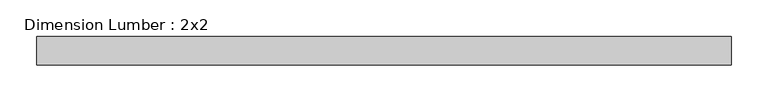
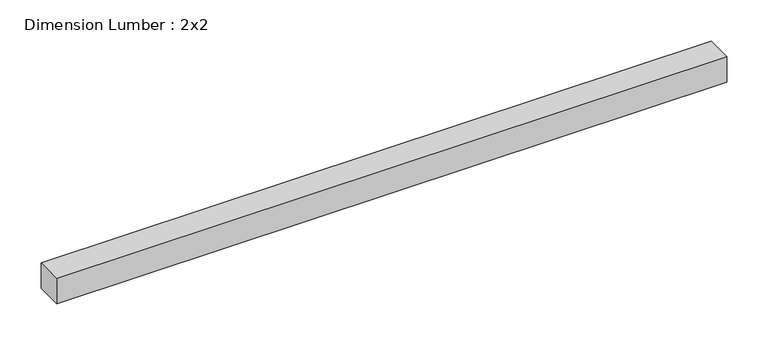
"""IFC4 building model written with IfcOpenShell, lengths in millimetres: beam geometry, Dimension Lumber : 2x2."""

import ifcopenshell
import ifcopenshell.guid

model = None  # the IFC model being written
_history = None  # IfcOwnerHistory: only IFC2X3 demands one
_inside = {}  # id of a spatial element -> (the spatial element, [elements in it])
_under = {}  # id of a project, library or spatial element -> (it, [spatial elements below it])
_declared = {}  # id of a project -> (the project, [libraries it declares])
_typed = {}  # id of a type object -> (the type object, [elements of that type])
_made_of = {}  # id of a material, layer set ... -> (it, [elements and type objects made of it])


def new_model(schema):
    """Start an empty IFC model of exactly this schema.

    Asked for "IFC4X3", IfcOpenShell would pick the latest addendum, in which some entities
    have other attributes; the version numbers below select the first issue.
    IFC2X3 requires an IfcOwnerHistory on every rooted entity: one is made here for all.
    """
    global model, _history
    if schema == "IFC4X3":
        model = ifcopenshell.file(schema_version=(4, 3, 0, 0))
    else:
        model = ifcopenshell.file(schema=schema)
    _inside.clear()
    _under.clear()
    _declared.clear()
    _typed.clear()
    _made_of.clear()
    _history = None
    if model.schema == "IFC2X3":
        org = make("IfcOrganization", Name="unknown")
        user = make(
            "IfcPersonAndOrganization",
            ThePerson=make("IfcPerson", FamilyName="unknown"),
            TheOrganization=org,
        )
        app = make(
            "IfcApplication",
            ApplicationDeveloper=org,
            Version="unknown",
            ApplicationFullName="unknown",
            ApplicationIdentifier="unknown",
        )
        _history = make(
            "IfcOwnerHistory",
            OwningUser=user,
            OwningApplication=app,
            ChangeAction="ADDED",
            CreationDate=0,
        )
    return model


def make(cls, **values):
    """One entity of the class cls with the attributes given. An attribute that is None is left unset."""
    return model.create_entity(
        cls, **{name: value for name, value in values.items() if value is not None}
    )


def rooted(cls, **values):
    """An entity with a GlobalId (a new one), such as an element, a storey or a relation."""
    return make(cls, GlobalId=ifcopenshell.guid.new(), OwnerHistory=_history, **values)


def si_unit(unit_type, name, prefix=None):
    """IfcSIUnit, for example si_unit("LENGTHUNIT", "METRE", prefix="MILLI")."""
    return make("IfcSIUnit", UnitType=unit_type, Prefix=prefix, Name=name)


def assignment(units):
    """IfcUnitAssignment: the units of a project."""
    return None if units is None else make("IfcUnitAssignment", Units=units)


def point(xyz):
    """IfcCartesianPoint."""
    return None if xyz is None else make("IfcCartesianPoint", Coordinates=xyz)


def direction(xyz):
    """IfcDirection."""
    return None if xyz is None else make("IfcDirection", DirectionRatios=xyz)


def frame(location, z_axis=None, x_axis=None):
    """IfcAxis2Placement3D, a coordinate frame: its origin and axes. An axis left out is left unset."""
    return make(
        "IfcAxis2Placement3D",
        Location=point(location),
        Axis=direction(z_axis),
        RefDirection=direction(x_axis),
    )


def origin():
    """The frame at (0, 0, 0) with its axes left unset."""
    return frame((0.0, 0.0, 0.0))


def place(relative_to, where):
    """IfcLocalPlacement: puts the frame where relative to a parent placement (None: the world)."""
    return make(
        "IfcLocalPlacement", PlacementRelTo=relative_to, RelativePlacement=where
    )


def context(
    kind, dimensions, precision=None, world=None, true_north=None, identifier=None
):
    """IfcGeometricRepresentationContext, for example the 3D "Model" context."""
    return make(
        "IfcGeometricRepresentationContext",
        ContextIdentifier=identifier,
        ContextType=kind,
        CoordinateSpaceDimension=dimensions,
        Precision=precision,
        WorldCoordinateSystem=world,
        TrueNorth=true_north,
    )


def project(units=None, contexts=None):
    """IfcProject with its units and contexts."""
    return rooted(
        "IfcProject",
        Name="project",
        RepresentationContexts=contexts,
        UnitsInContext=assignment(units),
    )


def spatial(cls, under=None, at=None, **own):
    """A site, building, storey or space (cls), placed at a placement, below another one or the project."""
    s = rooted(cls, ObjectPlacement=at, **own)
    if under is not None:
        _under.setdefault(under.id(), (under, []))[1].append(s)
    return s


def polyline(points):
    """IfcPolyline through the points."""
    return make("IfcPolyline", Points=[point(p) for p in points])


def outline(outer, holes=None, kind="AREA"):
    """IfcArbitraryClosedProfileDef: a profile drawn as a closed curve; with holes, ...WithVoids."""
    if holes is None:
        return make("IfcArbitraryClosedProfileDef", ProfileType=kind, OuterCurve=outer)
    return make(
        "IfcArbitraryProfileDefWithVoids",
        ProfileType=kind,
        OuterCurve=outer,
        InnerCurves=holes,
    )


def extrude(swept, where, along, depth):
    """IfcExtrudedAreaSolid: the profile swept, set in the frame where, extruded along a direction by depth."""
    return make(
        "IfcExtrudedAreaSolid",
        SweptArea=swept,
        Position=where,
        ExtrudedDirection=direction(along),
        Depth=depth,
    )


def shape(context_of_items, identifier, shape_type, items):
    """IfcShapeRepresentation: the items that make up one representation, for example the "Body"."""
    return make(
        "IfcShapeRepresentation",
        ContextOfItems=context_of_items,
        RepresentationIdentifier=identifier,
        RepresentationType=shape_type,
        Items=items,
    )


def source(mapping_origin, context_of_items, identifier, shape_type, items):
    """IfcRepresentationMap: a shape defined once, which mapped items show again and again."""
    return make(
        "IfcRepresentationMap",
        MappingOrigin=mapping_origin,
        MappedRepresentation=shape(context_of_items, identifier, shape_type, items),
    )


def transform(
    local_origin,
    x_axis=None,
    y_axis=None,
    z_axis=None,
    scale=None,
    scale2=None,
    scale3=None,
    uniform=True,
):
    """IfcCartesianTransformationOperator3D, or its non-uniform kind. x_axis, y_axis, z_axis: its Axis1, 2, 3."""
    if uniform:
        return make(
            "IfcCartesianTransformationOperator3D",
            Axis1=direction(x_axis),
            Axis2=direction(y_axis),
            LocalOrigin=point(local_origin),
            Scale=scale,
            Axis3=direction(z_axis),
        )
    return make(
        "IfcCartesianTransformationOperator3DnonUniform",
        Axis1=direction(x_axis),
        Axis2=direction(y_axis),
        LocalOrigin=point(local_origin),
        Scale=scale,
        Axis3=direction(z_axis),
        Scale2=scale2,
        Scale3=scale3,
    )


def mapped(mapping_source, mapping_target):
    """IfcMappedItem: shows the shape of a source again, moved by a transform."""
    return make(
        "IfcMappedItem", MappingSource=mapping_source, MappingTarget=mapping_target
    )


def made_of(thing, what):
    """Note that an element or type object is made of a material, layer set ...; save() writes the relation."""
    if what is not None:
        _made_of.setdefault(what.id(), (what, []))[1].append(thing)
    return thing


def element(
    cls,
    number,
    at=None,
    inside=None,
    cuts=None,
    type_object=None,
    material=None,
    context=None,
    identifier="Body",
    shape_type=None,
    held_by="IfcProductDefinitionShape",
    body=None,
    shapes=None,
    **own,
):
    """One element of the class cls, such as IfcWall. Its Tag is "e" and its number.

    at: its placement. inside: the storey or other place that contains it. cuts: it is an
    opening in that element (IfcRelVoidsElement). A single representation is given by context,
    identifier, shape_type and body (its items); several are given by shapes. held_by: the class
    of the entity that holds the representations. save() writes the other relations.
    """
    e = rooted(cls, Tag="e%d" % number, ObjectPlacement=at, **own)
    if body is not None:
        shapes = [shape(context, identifier, shape_type, body)]
    if shapes is not None:
        e.Representation = make(held_by, Representations=shapes)
    if inside is not None:
        _inside.setdefault(inside.id(), (inside, []))[1].append(e)
    if cuts is not None:
        rooted(
            "IfcRelVoidsElement", RelatingBuildingElement=cuts, RelatedOpeningElement=e
        )
    if type_object is not None:
        _typed.setdefault(type_object.id(), (type_object, []))[1].append(e)
    return made_of(e, material)


def aggregate(whole, parts):
    """IfcRelAggregates: a whole, such as a stair, and the parts it consists of."""
    return rooted("IfcRelAggregates", RelatingObject=whole, RelatedObjects=parts)


def save(model, path):
    """Write the relations noted so far, then the file.

    IfcRelAggregates (storeys below a building ...), IfcRelContainedInSpatialStructure (elements
    in a storey), IfcRelDefinesByType, IfcRelAssociatesMaterial and IfcRelDeclares: one each for
    every whole, place, type object, material and project.
    """
    for whole, parts in _under.values():
        aggregate(whole, parts)
    for where, things in _inside.values():
        rooted(
            "IfcRelContainedInSpatialStructure",
            RelatedElements=things,
            RelatingStructure=where,
        )
    for kind, things in _typed.values():
        rooted("IfcRelDefinesByType", RelatedObjects=things, RelatingType=kind)
    for what, things in _made_of.values():
        rooted("IfcRelAssociatesMaterial", RelatedObjects=things, RelatingMaterial=what)
    for by, libraries in _declared.values():
        rooted("IfcRelDeclares", RelatingContext=by, RelatedDefinitions=libraries)
    model.write(path)


def dimension_lumber_2x2_233e9105(model_context):
    return source(origin(), model_context, "Body", "SweptSolid", [
        extrude(outline(polyline([(469.9, 19.05), (469.9, -19.05), (-469.9, -19.05), (-469.9, 19.05), (469.9, 19.05)])), frame((0.0, 0.0, -19.05), z_axis=(0.0, 0.0, 1.0), x_axis=(1.0, 0.0, 0.0)), (0.0, 0.0, 1.0), 38.1),
    ])


if __name__ == "__main__":
    model = new_model("IFC4")
    model_context = context("Model", 3, world=origin())
    ifc_project = project(units=[si_unit("LENGTHUNIT", "METRE", prefix="MILLI")], contexts=[model_context])
    site = spatial("IfcSite", under=ifc_project)
    building = spatial("IfcBuilding", under=site)
    placement = place(None, origin())
    dimension_lumber_2x2_shape = dimension_lumber_2x2_233e9105(model_context)
    element("IfcBeam", 1, ObjectType="Dimension Lumber : 2x2", at=placement, inside=building, context=model_context, shape_type="MappedRepresentation", body=[
        mapped(dimension_lumber_2x2_shape, transform((0.0, 0.0, 0.0), x_axis=(1.0, 0.0, 0.0), y_axis=(0.0, 1.0, 0.0), z_axis=(0.0, 0.0, 1.0))),
    ])
    save(model, "model.ifc")
